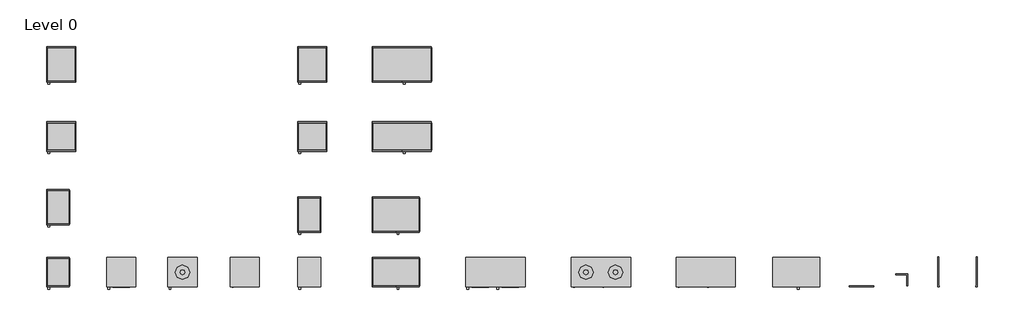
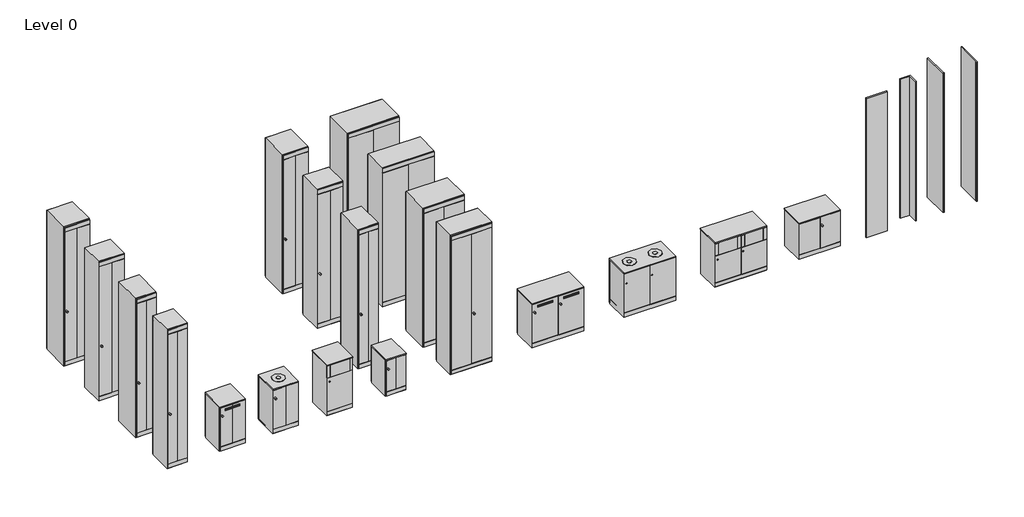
# One storey: 23 furniture elements.
"""IFC4 building model written with IfcOpenShell, lengths in millimetres."""

from ifc_helpers import new_model, si_unit, origin, place, context, project, spatial, transform, mapped, element, save
from components import furniture_bf96b95f, furniture_47b076d5, furniture_4713dafa, furniture_98cb0a5e, furniture_b37215d3, furniture_fd24127a, furniture_dc89b629, furniture_85e88d5e, furniture_989d2fca, furniture_6f07f4d4, apex_1_door_low_storage_3ecda170, apex_1_door_low_storage_recycling_module_13c922fa, apex_1_door_low_storage_recycling_module_top_865ce31f, apex_2_door_low_storage_540c3efe, apex_2_door_low_storage_recycling_module_7fa907ea, apex_2_door_low_storage_recycling_module_top_97303b22, apex_internal_corner_internal_corner_cde0c720, apex_lh_end_clad_apex_lh_end_clad_b14ebef5, apex_rh_end_clad_rh_end_clad_12976203, apex_wall_abutment_wall_abutment_to_200mm_a4d255e4

model = new_model("IFC4")

# Units and contexts
model_context = context("Model", 3, world=origin())
ifc_project = project(units=[si_unit("LENGTHUNIT", "METRE", prefix="MILLI")], contexts=[model_context])

# Site, building, storey
site = spatial("IfcSite", under=ifc_project)
building = spatial("IfcBuilding", under=site)
storey = spatial("IfcBuildingStorey", under=building, Name="Level 0", Elevation=0.0)

# Furniture
placement = place(None, origin())
furniture_shape = furniture_bf96b95f(model_context)
element("IfcFurniture", 1, ObjectType="Apex - 1 DOOR - FC OR CAPPED : 1 DOOR - F/C OR CAPPED 400mm(w) x 590mm(d)", at=placement, inside=storey, context=model_context, shape_type="MappedRepresentation", body=[
    mapped(furniture_shape, transform((-9679.6260636, 1727.5806026, 0.0), x_axis=(1.0, 0.0, 0.0), y_axis=(0.0, 1.0, 0.0), z_axis=(0.0, 0.0, 1.0))),
])
element("IfcFurniture", 2, ObjectType="Apex - 1 DOOR - FC OR CAPPED : 1 DOOR - F/C OR CAPPED 400mm(w) x 590mm(d)", at=placement, inside=storey, context=model_context, shape_type="MappedRepresentation", body=[
    mapped(furniture_shape, transform((-5527.2916467, 1605.8496098, 0.0), x_axis=(1.0, 0.0, 0.0), y_axis=(0.0, 1.0, 0.0), z_axis=(0.0, 0.0, 1.0))),
])
furniture_2_shape = furniture_47b076d5(model_context)
element("IfcFurniture", 3, ObjectType="Apex - 1 DOOR - FC OR CAPPED : 1 DOOR - F/C OR CAPPED 400mm(w) x 490mm(d)", at=placement, inside=storey, context=model_context, shape_type="MappedRepresentation", body=[
    mapped(furniture_2_shape, transform((-9679.6260636, 599.9308353, 0.0), x_axis=(1.0, 0.0, 0.0), y_axis=(0.0, 1.0, 0.0), z_axis=(0.0, 0.0, 1.0))),
])
furniture_3_shape = furniture_4713dafa(model_context)
element("IfcFurniture", 4, ObjectType="Apex - 1 DOOR - FC OR CAPPED : 1 DOOR - F/C OR CAPPED 500mm(w) x 490mm(d)", at=placement, inside=storey, context=model_context, shape_type="MappedRepresentation", body=[
    mapped(furniture_3_shape, transform((-9679.6260636, 2847.6315056, 0.0), x_axis=(1.0, 0.0, 0.0), y_axis=(0.0, 1.0, 0.0), z_axis=(0.0, 0.0, 1.0))),
])
element("IfcFurniture", 5, ObjectType="Apex - 1 DOOR - FC OR CAPPED : 1 DOOR - F/C OR CAPPED 500mm(w) x 490mm(d)", at=placement, inside=storey, context=model_context, shape_type="MappedRepresentation", body=[
    mapped(furniture_3_shape, transform((-5527.2916467, 2847.6315056, 0.0), x_axis=(1.0, 0.0, 0.0), y_axis=(0.0, 1.0, 0.0), z_axis=(0.0, 0.0, 1.0))),
])
furniture_4_shape = furniture_98cb0a5e(model_context)
element("IfcFurniture", 6, ObjectType="Apex - 1 DOOR - FC OR CAPPED : 1 DOOR - F/C OR CAPPED 500mm(w) x 590mm(d)", at=placement, inside=storey, context=model_context, shape_type="MappedRepresentation", body=[
    mapped(furniture_4_shape, transform((-9679.6260636, 4094.4806241, 0.0), x_axis=(1.0, 0.0, 0.0), y_axis=(0.0, 1.0, 0.0), z_axis=(0.0, 0.0, 1.0))),
])
element("IfcFurniture", 7, ObjectType="Apex - 1 DOOR - FC OR CAPPED : 1 DOOR - F/C OR CAPPED 500mm(w) x 590mm(d)", at=placement, inside=storey, context=model_context, shape_type="MappedRepresentation", body=[
    mapped(furniture_4_shape, transform((-5527.2916467, 4094.4806241, 0.0), x_axis=(1.0, 0.0, 0.0), y_axis=(0.0, 1.0, 0.0), z_axis=(0.0, 0.0, 1.0))),
])
furniture_5_shape = furniture_b37215d3(model_context)
element("IfcFurniture", 8, ObjectType="Apex - 1 DOOR - LOW STORAGE CONFIDENTIAL WASTE : APEX-SW-18-CONF1 Confidential waste 500mm(w) x 490mm(d) x 900mm(h)", at=placement, inside=storey, context=model_context, shape_type="MappedRepresentation", body=[
    mapped(furniture_5_shape, transform((-8684.6919651, 599.9308353, 0.0), x_axis=(1.0, 0.0, 0.0), y_axis=(0.0, 1.0, 0.0), z_axis=(0.0, 0.0, 1.0))),
])
furniture_6_shape = furniture_fd24127a(model_context)
element("IfcFurniture", 9, ObjectType="Apex - 2 DOOR - FC OR CAPPED : 2 DOOR - F/C OR CAPPED 800mm(w) x 490mm(d)", at=placement, inside=storey, context=model_context, shape_type="MappedRepresentation", body=[
    mapped(furniture_6_shape, transform((-4291.9103669, 599.9308353, 0.0), x_axis=(1.0, 0.0, 0.0), y_axis=(0.0, 1.0, 0.0), z_axis=(0.0, 0.0, 1.0))),
])
furniture_7_shape = furniture_dc89b629(model_context)
element("IfcFurniture", 10, ObjectType="Apex - 2 DOOR - FC OR CAPPED : 2 DOOR - F/C OR CAPPED 800mm(w) x 590mm(d)", at=placement, inside=storey, context=model_context, shape_type="MappedRepresentation", body=[
    mapped(furniture_7_shape, transform((-4291.9103669, 1605.8496098, 0.0), x_axis=(1.0, 0.0, 0.0), y_axis=(0.0, 1.0, 0.0), z_axis=(0.0, 0.0, 1.0))),
])
furniture_8_shape = furniture_85e88d5e(model_context)
element("IfcFurniture", 11, ObjectType="Apex - 2 DOOR - FC OR CAPPED : 2 DOOR - F/C OR CAPPED 1000mm(w) x 490mm(d)", at=placement, inside=storey, context=model_context, shape_type="MappedRepresentation", body=[
    mapped(furniture_8_shape, transform((-4291.9103669, 2847.6315056, 0.0), x_axis=(1.0, 0.0, 0.0), y_axis=(0.0, 1.0, 0.0), z_axis=(0.0, 0.0, 1.0))),
])
furniture_9_shape = furniture_989d2fca(model_context)
element("IfcFurniture", 12, ObjectType="Apex - 2 DOOR - FC OR CAPPED : 2 DOOR - F/C OR CAPPED 1000mm(w) x 590mm(d)", at=placement, inside=storey, context=model_context, shape_type="MappedRepresentation", body=[
    mapped(furniture_9_shape, transform((-4291.9103669, 4094.4806241, 0.0), x_axis=(1.0, 0.0, 0.0), y_axis=(0.0, 1.0, 0.0), z_axis=(0.0, 0.0, 1.0))),
])
furniture_10_shape = furniture_6f07f4d4(model_context)
element("IfcFurniture", 13, ObjectType="Apex - 2 DOOR - LOW STORAGE CONFIDENTIAL WASTE : APEX-SW-18-CONF2 Confidential waste 500mm(w) x 490mm(d) x 900mm(h)", at=placement, inside=storey, context=model_context, shape_type="MappedRepresentation", body=[
    mapped(furniture_10_shape, transform((-2747.3133277, 599.9308353, 0.0), x_axis=(1.0, 0.0, 0.0), y_axis=(0.0, 1.0, 0.0), z_axis=(0.0, 0.0, 1.0))),
])
apex_1_door_low_storage_shape = apex_1_door_low_storage_3ecda170(model_context)
element("IfcFurniture", 14, ObjectType="Apex - 1 DOOR - LOW STORAGE : APEX-SW-09-LOW STORAGE 1DR 400mm(w) x 490mm(d) x 740mm(h)", at=placement, inside=storey, context=model_context, shape_type="MappedRepresentation", body=[
    mapped(apex_1_door_low_storage_shape, transform((-5527.2916467, 599.9308353, 0.0), x_axis=(1.0, 0.0, 0.0), y_axis=(0.0, 1.0, 0.0), z_axis=(0.0, 0.0, 1.0))),
])
apex_1_door_low_storage_recycling_module_shape = apex_1_door_low_storage_recycling_module_13c922fa(model_context)
element("IfcFurniture", 15, ObjectType="Apex - 1 DOOR - LOW STORAGE RECYCLING MODULE : APEX-SW-18-RCFP1 500mm(w) x 490mm(d) x 1028mm(h)", at=placement, inside=storey, context=model_context, shape_type="MappedRepresentation", body=[
    mapped(apex_1_door_low_storage_recycling_module_shape, transform((-6642.7909861, 599.9308353, 0.0), x_axis=(1.0, 0.0, 0.0), y_axis=(0.0, 1.0, 0.0), z_axis=(0.0, 0.0, 1.0))),
])
apex_1_door_low_storage_recycling_module_top_shape = apex_1_door_low_storage_recycling_module_top_865ce31f(model_context)
element("IfcFurniture", 16, ObjectType="Apex - 1 DOOR - LOW STORAGE RECYCLING MODULE TOP : APEX-SW-18-RCFP1 1DR 500mm(w) x 490mm(d) x 900mm(h)", at=placement, inside=storey, context=model_context, shape_type="MappedRepresentation", body=[
    mapped(apex_1_door_low_storage_recycling_module_top_shape, transform((-7672.7801456, 599.9308353, 0.0), x_axis=(1.0, 0.0, 0.0), y_axis=(0.0, 1.0, 0.0), z_axis=(0.0, 0.0, 1.0))),
])
apex_2_door_low_storage_shape = apex_2_door_low_storage_540c3efe(model_context)
element("IfcFurniture", 17, ObjectType="Apex - 2 DOOR - LOW STORAGE : APEX-SW-09-LOW STORAGE 2DR 800mm(w) x 490mm(d) x 740mm(h)", at=placement, inside=storey, context=model_context, shape_type="MappedRepresentation", body=[
    mapped(apex_2_door_low_storage_shape, transform((2328.8220849, 599.9308353, 0.0), x_axis=(1.0, 0.0, 0.0), y_axis=(0.0, 1.0, 0.0), z_axis=(0.0, 0.0, 1.0))),
])
apex_2_door_low_storage_recycling_module_shape = apex_2_door_low_storage_recycling_module_7fa907ea(model_context)
element("IfcFurniture", 18, ObjectType="Apex - 2 DOOR - LOW STORAGE RECYCLING MODULE : APEX-SW-18-RCFP2 500mm(w) x 490mm(d) x 1028mm(h)", at=placement, inside=storey, context=model_context, shape_type="MappedRepresentation", body=[
    mapped(apex_2_door_low_storage_recycling_module_shape, transform((732.2674507, 599.9308353, 0.0), x_axis=(1.0, 0.0, 0.0), y_axis=(0.0, 1.0, 0.0), z_axis=(0.0, 0.0, 1.0))),
])
apex_2_door_low_storage_recycling_module_top_shape = apex_2_door_low_storage_recycling_module_top_97303b22(model_context)
element("IfcFurniture", 19, ObjectType="Apex - 2 DOOR - LOW STORAGE RECYCLING MODULE TOP : APEX-SW-18-RCTP2 500mm(w) x 490mm(d) x 1028mm(h)", at=placement, inside=storey, context=model_context, shape_type="MappedRepresentation", body=[
    mapped(apex_2_door_low_storage_recycling_module_top_shape, transform((-1000.5358285, 599.9308353, 0.0), x_axis=(1.0, 0.0, 0.0), y_axis=(0.0, 1.0, 0.0), z_axis=(0.0, 0.0, 1.0))),
])
apex_internal_corner_internal_corner_shape = apex_internal_corner_internal_corner_cde0c720(model_context)
element("IfcFurniture", 20, ObjectType="Apex - Internal Corner : Internal corner", at=placement, inside=storey, context=model_context, shape_type="MappedRepresentation", body=[
    mapped(apex_internal_corner_internal_corner_shape, transform((4362.8578642, 327.9308353, 0.0), x_axis=(1.0, 0.0, 0.0), y_axis=(0.0, 1.0, 0.0), z_axis=(0.0, 0.0, 1.0))),
])
apex_lh_end_clad_apex_lh_end_clad_shape = apex_lh_end_clad_apex_lh_end_clad_b14ebef5(model_context)
element("IfcFurniture", 21, ObjectType="Apex - LH End Clad : Apex LH end clad", at=placement, inside=storey, context=model_context, shape_type="MappedRepresentation", body=[
    mapped(apex_lh_end_clad_apex_lh_end_clad_shape, transform((5056.2817644, 610.8848455, 0.0), x_axis=(1.0, 0.0, 0.0), y_axis=(0.0, 1.0, 0.0), z_axis=(0.0, 0.0, 1.0))),
])
apex_rh_end_clad_rh_end_clad_shape = apex_rh_end_clad_rh_end_clad_12976203(model_context)
element("IfcFurniture", 22, ObjectType="Apex - RH End Clad : RH End clad", at=placement, inside=storey, context=model_context, shape_type="MappedRepresentation", body=[
    mapped(apex_rh_end_clad_rh_end_clad_shape, transform((5691.9464192, 609.9308353, 0.0), x_axis=(1.0, 0.0, 0.0), y_axis=(0.0, 1.0, 0.0), z_axis=(0.0, 0.0, 1.0))),
])
apex_wall_abutment_wall_abutment_to_200mm_shape = apex_wall_abutment_wall_abutment_to_200mm_a4d255e4(model_context)
element("IfcFurniture", 23, ObjectType="Apex - Wall Abutment : Wall abutment to 200mm", at=placement, inside=storey, context=model_context, shape_type="MappedRepresentation", body=[
    mapped(apex_wall_abutment_wall_abutment_to_200mm_shape, transform((3600.4257342, 127.9308353, 0.0), x_axis=(1.0, 0.0, 0.0), y_axis=(0.0, 1.0, 0.0), z_axis=(0.0, 0.0, 1.0))),
])

save(model, "model.ifc")
